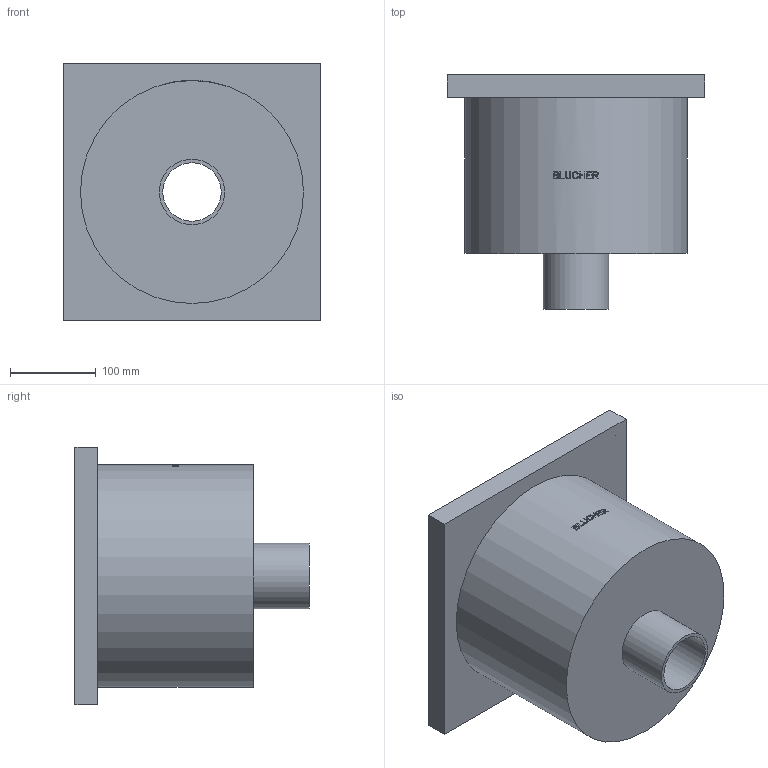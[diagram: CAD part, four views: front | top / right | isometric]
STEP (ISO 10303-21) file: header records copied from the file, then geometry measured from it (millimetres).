
FILE_DESCRIPTION((''),'2;1');
FILE_NAME('C:\Drawings\3D_CAD_Models\Blucher\BFD_Floor Drains_Complete_091119\BFD-300\WebsiteFiles\3D\STEP\BFD-343.stp','2009-11-29T11:31:58',('hofmansp'),(''),'Autodesk Inventor 2010','Autodesk Inventor 2010','');
FILE_SCHEMA(('AUTOMOTIVE_DESIGN { 1 0 10303 214 1 1 1 1 }'));
Length unit declared in the file: inch
Products named in the file (1): BFD-343
Bounding box: 300 x 273 x 300 mm (x, y, z)
Volume: 1029798.7 mm3; surface area: 554124.5 mm2
Topology: 1 solids, 1 shells, 116 faces, 302 edges, 202 vertices
Faces by surface type: plane 68, bspline 34, cylinder 14
Full cylindrical faces by diameter (mm): 68.2 x1, 76.2 x1, 255.999 x1, 260 x1
Entity records: 14276 total; most frequent: CARTESIAN_POINT 11698, ORIENTED_EDGE 592, DIRECTION 392, EDGE_CURVE 296, VERTEX_POINT 200, VECTOR 140, LINE 140, EDGE_LOOP 136
